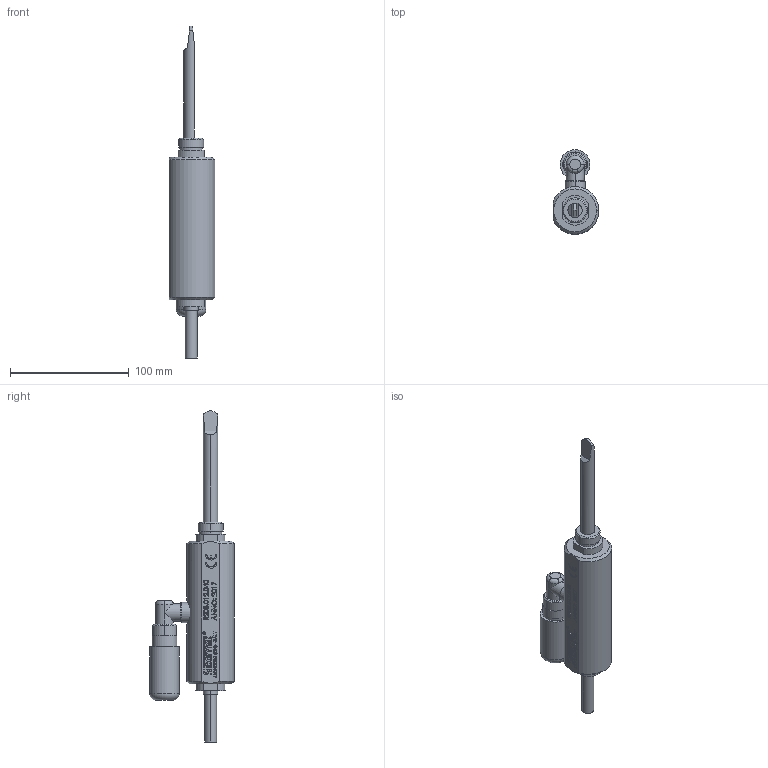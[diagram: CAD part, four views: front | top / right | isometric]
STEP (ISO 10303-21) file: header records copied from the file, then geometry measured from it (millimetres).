
FILE_DESCRIPTION (( 'STEP AP203' ), '1' );
FILE_NAME ('R208.012.040.STEP', '2018-03-09T13:15:06', ( '' ), ( '' ), 'SwSTEP 2.0', 'SolidWorks 2016', '' );
FILE_SCHEMA (( 'CONFIG_CONTROL_DESIGN' ));
Length unit declared in the file: millimetre
Products named in the file (8): R230.020.054; ANELLI TIPO SW_SW12; R230.020.053; RACCORDI A L 5020_5020-38; R208.012.040; SILENZIATORI 7070_7070-12; R230.020.051; R230.020.052
Assembly tree (7 placements, depth 2):
  R208.012.040
    R230.020.053
    R230.020.054
    R230.020.052
    SILENZIATORI 7070_7070-12
    RACCORDI A L 5020_5020-38
    R230.020.051
    ANELLI TIPO SW_SW12
Bounding box: 38.5 x 71.28 x 279.38 mm (x, y, z)
Volume: 183882.3 mm3; surface area: 49977.7 mm2
Topology: 7 solids, 7 shells, 676 faces, 1704 edges, 1126 vertices
Faces by surface type: plane 385, bspline 162, cylinder 104, cone 20, torus 5
Entity records: 31239 total; most frequent: CARTESIAN_POINT 15083, ORIENTED_EDGE 3408, DIRECTION 2637, EDGE_CURVE 1704, LINE 1129, VECTOR 1129, VERTEX_POINT 1126, EDGE_LOOP 768
